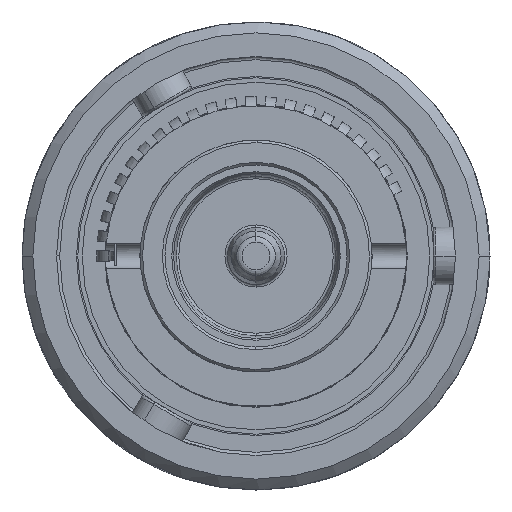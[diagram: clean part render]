
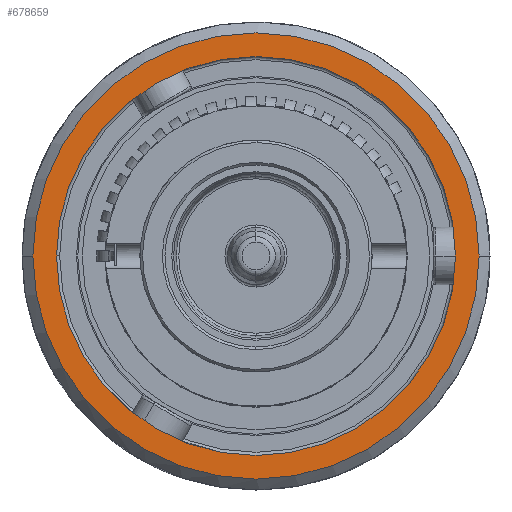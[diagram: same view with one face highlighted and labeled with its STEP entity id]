
A CAD part, left-side view. The second image highlights one B-rep face of the part: STEP entity #678659.
In plain terms, the highlighted planar face has unit normal (-1, 0, 0).
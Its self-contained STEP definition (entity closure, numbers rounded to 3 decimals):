
#207827=CARTESIAN_POINT('',(2.2,0.,0.));
#207828=DIRECTION('',(1.,0.,0.));
#207829=DIRECTION('',(0.,-1.,0.));
#207830=AXIS2_PLACEMENT_3D('',#207827,#207828,#207829);
#207990=CARTESIAN_POINT('',(2.2,0.,0.));
#207991=DIRECTION('',(-1.,0.,0.));
#207992=DIRECTION('',(0.,-1.,0.));
#207993=AXIS2_PLACEMENT_3D('',#207990,#207991,#207992);
#208121=CARTESIAN_POINT('',(2.2,0.,0.));
#208122=DIRECTION('',(1.,0.,0.));
#208123=DIRECTION('',(0.,-1.,0.));
#208124=AXIS2_PLACEMENT_3D('',#208121,#208122,#208123);
#208126=CARTESIAN_POINT('',(2.2,0.,0.));
#208127=DIRECTION('',(-1.,0.,0.));
#208128=DIRECTION('',(0.,-1.,0.));
#208129=AXIS2_PLACEMENT_3D('',#208126,#208127,#208128);
#245203=CARTESIAN_POINT('',(2.2,-15.56,0.));
#245204=CARTESIAN_POINT('',(2.2,15.56,0.));
#245205=VERTEX_POINT('',#245203);
#245206=VERTEX_POINT('',#245204);
#245233=CARTESIAN_POINT('',(2.2,17.4,0.));
#245235=VERTEX_POINT('',#245233);
#245237=CARTESIAN_POINT('',(2.2,-17.4,0.));
#245238=VERTEX_POINT('',#245237);
#678644=CARTESIAN_POINT('',(2.2,0.,0.));
#678645=DIRECTION('',(-1.,0.,0.));
#678646=DIRECTION('',(0.,1.,0.));
#678647=AXIS2_PLACEMENT_3D('',#678644,#678645,#678646);
#678648=PLANE('1462',#678647);
#678649=ORIENTED_EDGE('52564',*,*,#678392,.F.);
#678650=ORIENTED_EDGE('52565',*,*,#678126,.T.);
#678651=EDGE_LOOP('1462',(#678649,#678650));
#678652=FACE_OUTER_BOUND('1462',#678651,.F.);
#678654=ORIENTED_EDGE('52549',*,*,#678653,.F.);
#678656=ORIENTED_EDGE('52548',*,*,#678655,.T.);
#678657=EDGE_LOOP('1462',(#678654,#678656));
#678658=FACE_BOUND('1462',#678657,.F.);
#207831=CIRCLE('52565',#207830,17.4);
#207994=CIRCLE('52564',#207993,17.4);
#208125=CIRCLE('52549',#208124,15.56);
#208130=CIRCLE('52548',#208129,15.56);
#678126=EDGE_CURVE('52565',#245238,#245235,#207831,.T.);
#678392=EDGE_CURVE('52564',#245238,#245235,#207994,.T.);
#678653=EDGE_CURVE('52549',#245205,#245206,#208125,.T.);
#678655=EDGE_CURVE('52548',#245205,#245206,#208130,.T.);
#678659=ADVANCED_FACE('1462',(#678652,#678658),#678648,.T.);
